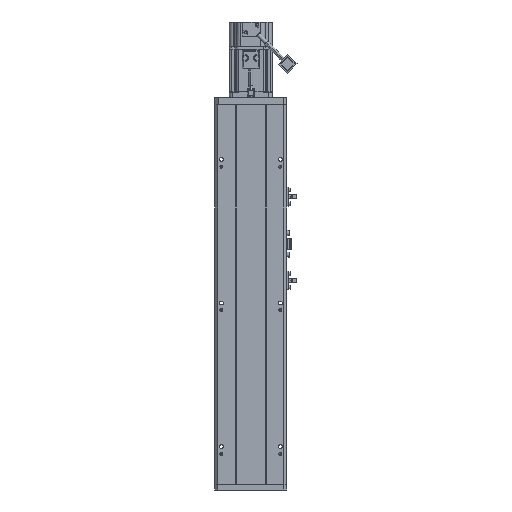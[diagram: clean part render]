
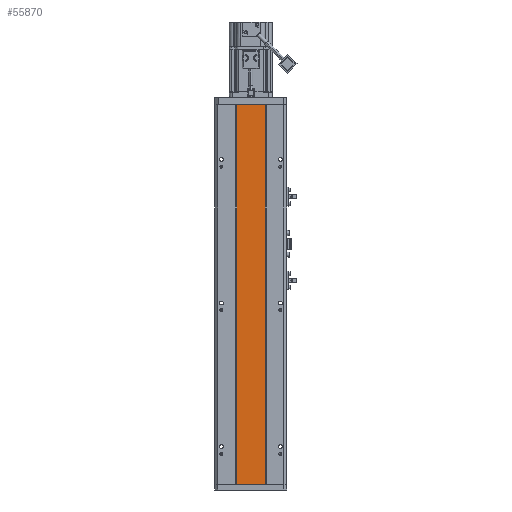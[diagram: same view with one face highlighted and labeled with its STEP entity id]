
A CAD part, front view. The second image highlights one B-rep face of the part: STEP entity #55870.
In plain terms, the highlighted planar face has unit normal (0, -1, 0).
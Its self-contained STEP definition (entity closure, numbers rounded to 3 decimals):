
#1475 = CARTESIAN_POINT ( 'NONE',  ( 20., 0., -528.5 ) ) ;
#3859 = CARTESIAN_POINT ( 'NONE',  ( -20., 0., 0. ) ) ;
#6037 = CARTESIAN_POINT ( 'NONE',  ( 20., 0., -528.5 ) ) ;
#6581 = FACE_OUTER_BOUND ( 'NONE', #69488, .T. ) ;
#7636 = AXIS2_PLACEMENT_3D ( 'NONE', #62656, #76385, #34921 ) ;
#10981 = CARTESIAN_POINT ( 'NONE',  ( -20., 0., -528.5 ) ) ;
#15694 = VERTEX_POINT ( 'NONE', #19148 ) ;
#19148 = CARTESIAN_POINT ( 'NONE',  ( 20., 0., -528.5 ) ) ;
#20077 = DIRECTION ( 'NONE',  ( 0., 0., 1. ) ) ;
#21398 = VERTEX_POINT ( 'NONE', #3859 ) ;
#21530 = ORIENTED_EDGE ( 'NONE', *, *, #64784, .T. ) ;
#22233 = CARTESIAN_POINT ( 'NONE',  ( 20., 0., 0. ) ) ;
#23728 = ORIENTED_EDGE ( 'NONE', *, *, #64913, .F. ) ;
#25141 = ORIENTED_EDGE ( 'NONE', *, *, #64643, .T. ) ;
#25536 = VERTEX_POINT ( 'NONE', #10981 ) ;
#26487 = LINE ( 'NONE', #43459, #63777 ) ;
#28046 = CARTESIAN_POINT ( 'NONE',  ( 20., 0., 0. ) ) ;
#28353 = DIRECTION ( 'NONE',  ( -1., 0., 0. ) ) ;
#33836 = VERTEX_POINT ( 'NONE', #22233 ) ;
#34298 = PLANE ( 'NONE',  #7636 ) ;
#34921 = DIRECTION ( 'NONE',  ( -1., 0., 0. ) ) ;
#42027 = LINE ( 'NONE', #6037, #76592 ) ;
#43459 = CARTESIAN_POINT ( 'NONE',  ( -20., 0., -528.5 ) ) ;
#50378 = DIRECTION ( 'NONE',  ( 0., 0., 1. ) ) ;
#55870 = ADVANCED_FACE ( 'NONE', ( #6581 ), #34298, .F. ) ;
#59326 = VECTOR ( 'NONE', #78152, 1000. ) ;
#62656 = CARTESIAN_POINT ( 'NONE',  ( 20., 0., -528.5 ) ) ;
#63777 = VECTOR ( 'NONE', #50378, 1000. ) ;
#63876 = ORIENTED_EDGE ( 'NONE', *, *, #64893, .F. ) ;
#64643 = EDGE_CURVE ( 'NONE', #15694, #33836, #42027, .T. ) ;
#64784 = EDGE_CURVE ( 'NONE', #33836, #21398, #70160, .T. ) ;
#64893 = EDGE_CURVE ( 'NONE', #25536, #21398, #26487, .T. ) ;
#64913 = EDGE_CURVE ( 'NONE', #15694, #25536, #79727, .T. ) ;
#69488 = EDGE_LOOP ( 'NONE', ( #21530, #63876, #23728, #25141 ) ) ;
#70160 = LINE ( 'NONE', #28046, #86060 ) ;
#76385 = DIRECTION ( 'NONE',  ( 0., 1., 0. ) ) ;
#76592 = VECTOR ( 'NONE', #20077, 1000. ) ;
#78152 = DIRECTION ( 'NONE',  ( -1., 0., 0. ) ) ;
#79727 = LINE ( 'NONE', #1475, #59326 ) ;
#86060 = VECTOR ( 'NONE', #28353, 1000. ) ;
